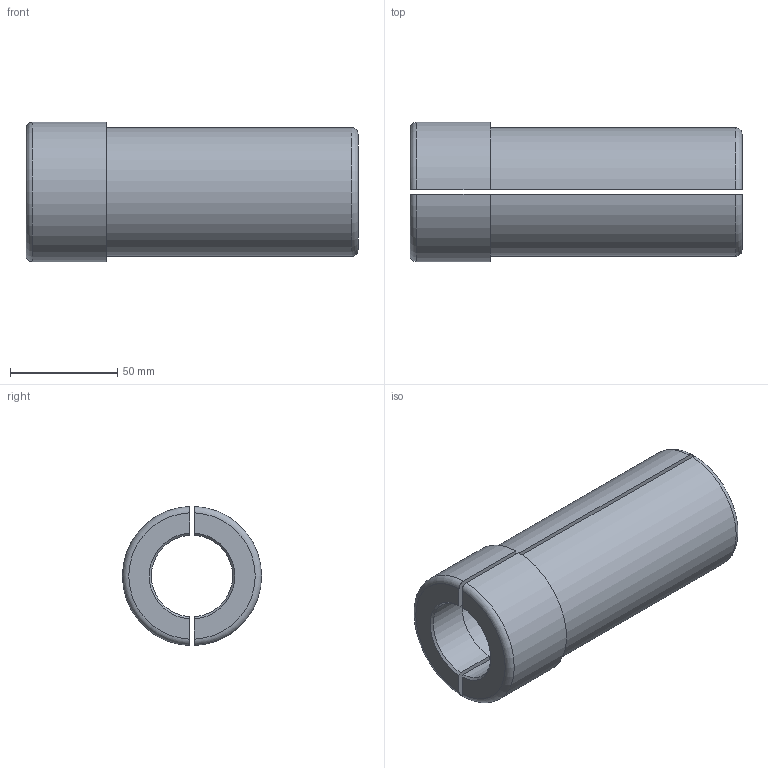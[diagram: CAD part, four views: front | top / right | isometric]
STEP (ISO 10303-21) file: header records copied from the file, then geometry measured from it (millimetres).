
FILE_DESCRIPTION((''),'2;1');
FILE_NAME('6158128930','2016-06-02T',('greextsd'),(''),'CREO PARAMETRIC BY PTC INC, 2016050','CREO PARAMETRIC BY PTC INC, 2016050','');
FILE_SCHEMA(('CONFIG_CONTROL_DESIGN'));
Length unit declared in the file: millimetre
Products named in the file (1): 6158128930
Bounding box: 155 x 65 x 64.97 mm (x, y, z)
Volume: 174058.9 mm3; surface area: 60466.6 mm2
Topology: 2 solids, 2 shells, 38 faces, 102 edges, 68 vertices
Faces by surface type: plane 14, cylinder 10, torus 8, cone 6
Entity records: 1324 total; most frequent: CARTESIAN_POINT 352, ORIENTED_EDGE 204, DIRECTION 184, EDGE_CURVE 102, AXIS2_PLACEMENT_3D 72, VERTEX_POINT 68, VECTOR 40, LINE 40
